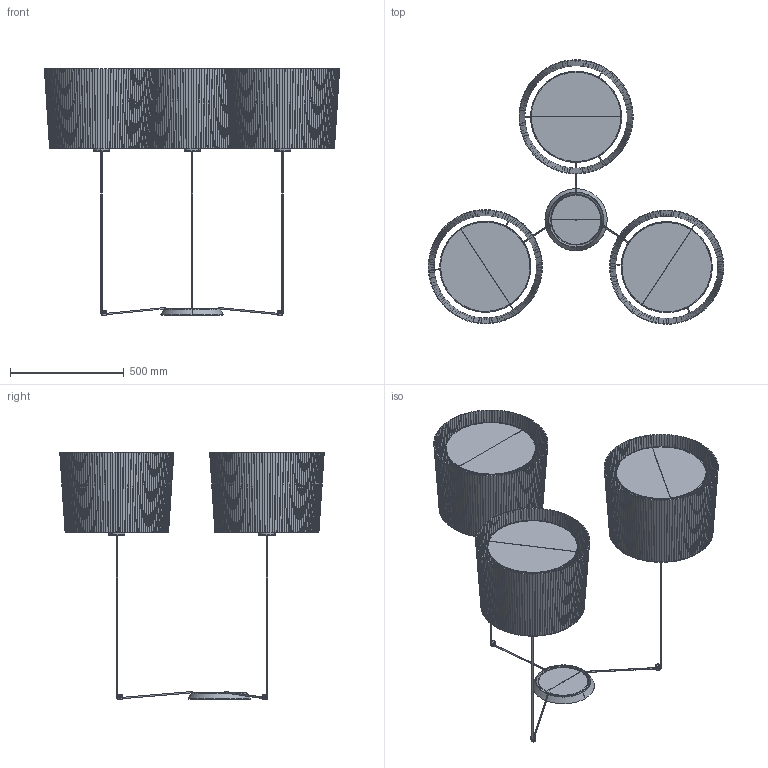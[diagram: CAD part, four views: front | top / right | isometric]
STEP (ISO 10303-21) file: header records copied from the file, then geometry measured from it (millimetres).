
FILE_DESCRIPTION(/* description */ (''),/* implementation_level */ '2;1');
FILE_NAME(/* name */ 'C:\Users\Franco Sartori E\Documents\FARO\DUPLICADO\Modelos\01_Digitalizados\2021\0_MAMBO_SAMBA_CONGA\03_Publicación\64314-44-3L.stp',/* time_stamp */ '2021-02-19T10:03:09+01:00',/* author */ ('Franco Sartori E'),/* organization */ (''),/* preprocessor_version */ 'ST-DEVELOPER v18.1',/* originating_system */ 'AutoCAD Mechanical',/* authorisation */ '');
FILE_SCHEMA (('AUTOMOTIVE_DESIGN { 1 0 10303 214 3 1 1 }'));
Products named in the file (5): Product; CANOPY_3 - 68603-407759-_3D_; SAMBA_FMA - LH-408160-_3D_; SAMBA_FMA - LH-408163-_3D_; SAMBA_FMA - LH-408166-_3D_
Assembly tree (4 placements, depth 2):
  Product
    CANOPY_3 - 68603-407759-_3D_
    SAMBA_FMA - LH-408160-_3D_
    SAMBA_FMA - LH-408163-_3D_
    SAMBA_FMA - LH-408166-_3D_
Bounding box: 1296.89 x 1160.87 x 1082.69 mm (x, y, z)
Volume: 5310285.3 mm3; surface area: 5389023 mm2
Topology: 452 solids, 452 shells, 3895 faces, 8744 edges, 5693 vertices
Faces by surface type: plane 3412, cylinder 309, torus 108, cone 66
Entity records: 113664 total; most frequent: CARTESIAN_POINT 27009, ORIENTED_EDGE 17440, DIRECTION 16708, EDGE_CURVE 8720, LINE 7714, VECTOR 7714, VERTEX_POINT 5693, AXIS2_PLACEMENT_3D 4497
